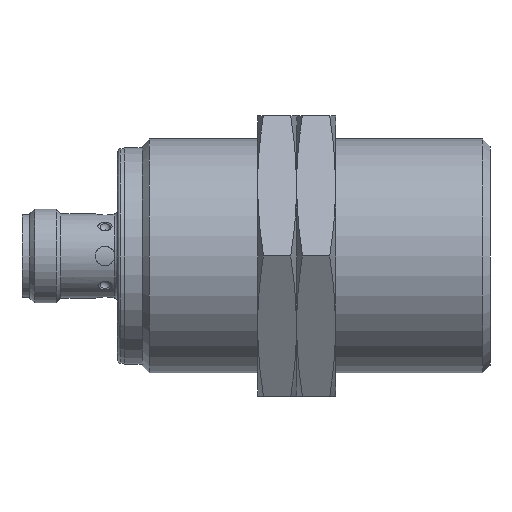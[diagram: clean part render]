
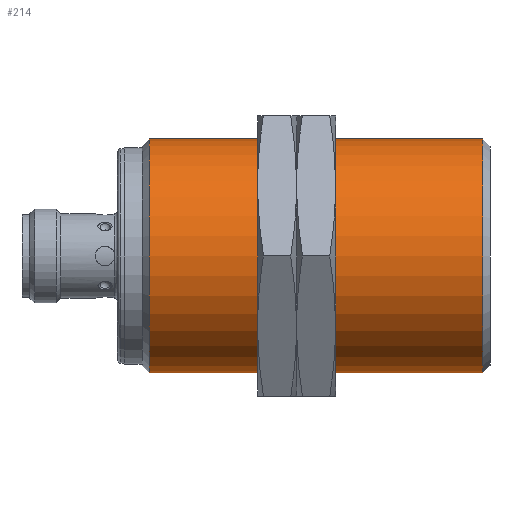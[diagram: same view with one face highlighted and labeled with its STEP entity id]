
A CAD part, front view. The second image highlights one B-rep face of the part: STEP entity #214.
In plain terms, the highlighted cylindrical face has radius 15 mm (diameter 30 mm), a full revolution.
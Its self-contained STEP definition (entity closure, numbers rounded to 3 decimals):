
#214 = ADVANCED_FACE( '', ( #337, #338 ), #339, .T. );
#337 = FACE_OUTER_BOUND( '', #508, .T. );
#338 = FACE_OUTER_BOUND( '', #509, .T. );
#339 = CYLINDRICAL_SURFACE( '', #510, 15. );
#508 = EDGE_LOOP( '', ( #785 ) );
#509 = EDGE_LOOP( '', ( #786 ) );
#510 = AXIS2_PLACEMENT_3D( '', #787, #788, #789 );
#785 = ORIENTED_EDGE( '', *, *, #1001, .F. );
#786 = ORIENTED_EDGE( '', *, *, #1002, .T. );
#787 = CARTESIAN_POINT( '', ( 60., 0., 0. ) );
#788 = DIRECTION( '', ( -1., 0., 0. ) );
#789 = DIRECTION( '', ( 0., 0., -1. ) );
#1001 = EDGE_CURVE( '', #1130, #1130, #1131, .T. );
#1002 = EDGE_CURVE( '', #1132, #1132, #1133, .T. );
#1130 = VERTEX_POINT( '', #1715 );
#1131 = CIRCLE( '', #1716, 15. );
#1132 = VERTEX_POINT( '', #1717 );
#1133 = CIRCLE( '', #1718, 15. );
#1715 = CARTESIAN_POINT( '', ( 59.08, 0., -15. ) );
#1716 = AXIS2_PLACEMENT_3D( '', #1970, #1971, #1972 );
#1717 = CARTESIAN_POINT( '', ( 16.32, 0., -15. ) );
#1718 = AXIS2_PLACEMENT_3D( '', #1973, #1974, #1975 );
#1970 = CARTESIAN_POINT( '', ( 59.08, 0., 0. ) );
#1971 = DIRECTION( '', ( 1., 0., 0. ) );
#1972 = DIRECTION( '', ( 0., 0., -1. ) );
#1973 = CARTESIAN_POINT( '', ( 16.32, 0., 0. ) );
#1974 = DIRECTION( '', ( 1., 0., 0. ) );
#1975 = DIRECTION( '', ( 0., 0., -1. ) );
